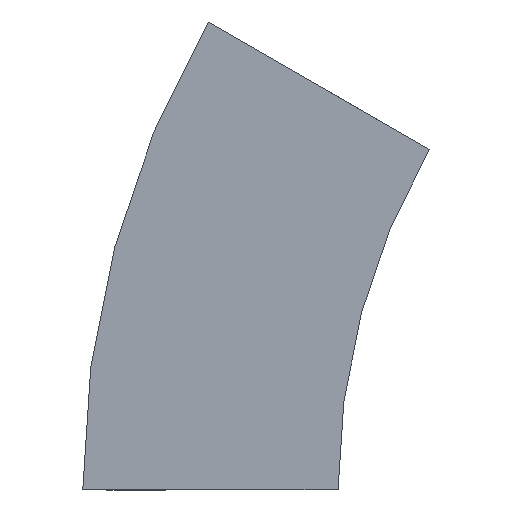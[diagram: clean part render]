
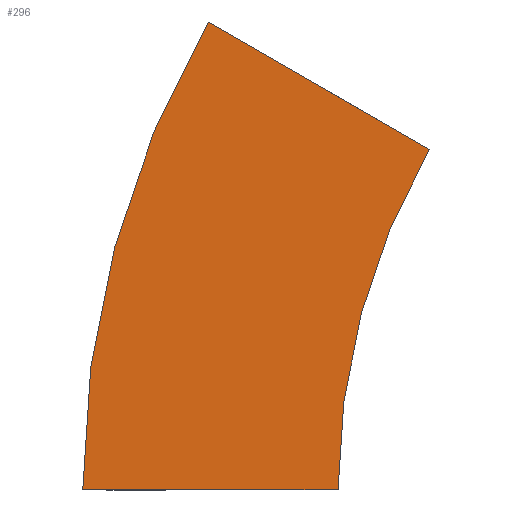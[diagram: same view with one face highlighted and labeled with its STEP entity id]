
A CAD part, left-side view. The second image highlights one B-rep face of the part: STEP entity #296.
In plain terms, the highlighted planar face has unit normal (-1, 0, 0) as drawn and (1, 0, 0) by its records, which use the part's own axes.
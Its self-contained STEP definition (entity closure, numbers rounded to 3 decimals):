
#12 = DIRECTION ( 'NONE',  ( 0., 0., -1. ) ) ;
#16 = VECTOR ( 'NONE', #436, 1000. ) ;
#38 = DIRECTION ( 'NONE',  ( 1., 0., 0. ) ) ;
#51 = EDGE_LOOP ( 'NONE', ( #533, #58, #440, #510 ) ) ;
#58 = ORIENTED_EDGE ( 'NONE', *, *, #407, .F. ) ;
#66 = DIRECTION ( 'NONE',  ( 0., 0.866, 0.5 ) ) ;
#69 = CARTESIAN_POINT ( 'NONE',  ( 0., -40.192, 150. ) ) ;
#77 = DIRECTION ( 'NONE',  ( 0., 1., 0. ) ) ;
#100 = EDGE_CURVE ( 'NONE', #309, #359, #267, .T. ) ;
#137 = PLANE ( 'NONE',  #360 ) ;
#140 = EDGE_CURVE ( 'NONE', #309, #145, #421, .T. ) ;
#145 = VERTEX_POINT ( 'NONE', #384 ) ;
#153 = AXIS2_PLACEMENT_3D ( 'NONE', #558, #38, #302 ) ;
#188 = VERTEX_POINT ( 'NONE', #263 ) ;
#197 = CARTESIAN_POINT ( 'NONE',  ( 0., -40.192, 150. ) ) ;
#201 = LINE ( 'NONE', #197, #277 ) ;
#232 = DIRECTION ( 'NONE',  ( 1., 0., 0. ) ) ;
#263 = CARTESIAN_POINT ( 'NONE',  ( 0., 57.235, 206.25 ) ) ;
#267 = CIRCLE ( 'NONE', #153, 300. ) ;
#268 = CARTESIAN_POINT ( 'NONE',  ( 0., 0., 0. ) ) ;
#277 = VECTOR ( 'NONE', #66, 1000. ) ;
#290 = DIRECTION ( 'NONE',  ( 1., 0., 0. ) ) ;
#296 = ADVANCED_FACE ( 'NONE', ( #398 ), #137, .T. ) ;
#302 = DIRECTION ( 'NONE',  ( 0., 1., 0. ) ) ;
#309 = VERTEX_POINT ( 'NONE', #268 ) ;
#359 = VERTEX_POINT ( 'NONE', #69 ) ;
#360 = AXIS2_PLACEMENT_3D ( 'NONE', #406, #232, #12 ) ;
#384 = CARTESIAN_POINT ( 'NONE',  ( 0., 112.5, 0. ) ) ;
#398 = FACE_OUTER_BOUND ( 'NONE', #51, .T. ) ;
#406 = CARTESIAN_POINT ( 'NONE',  ( 0., 0., 0. ) ) ;
#407 = EDGE_CURVE ( 'NONE', #359, #188, #201, .T. ) ;
#417 = CIRCLE ( 'NONE', #531, 412.5 ) ;
#419 = CARTESIAN_POINT ( 'NONE',  ( 0., -300., 0. ) ) ;
#421 = LINE ( 'NONE', #485, #16 ) ;
#436 = DIRECTION ( 'NONE',  ( 0., 1., 0. ) ) ;
#440 = ORIENTED_EDGE ( 'NONE', *, *, #100, .F. ) ;
#485 = CARTESIAN_POINT ( 'NONE',  ( 0., 0., 0. ) ) ;
#510 = ORIENTED_EDGE ( 'NONE', *, *, #140, .T. ) ;
#514 = EDGE_CURVE ( 'NONE', #145, #188, #417, .T. ) ;
#531 = AXIS2_PLACEMENT_3D ( 'NONE', #419, #290, #77 ) ;
#533 = ORIENTED_EDGE ( 'NONE', *, *, #514, .T. ) ;
#558 = CARTESIAN_POINT ( 'NONE',  ( 0., -300., 0. ) ) ;
